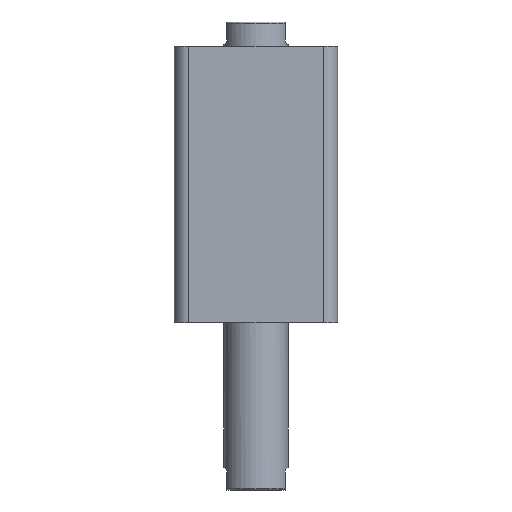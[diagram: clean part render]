
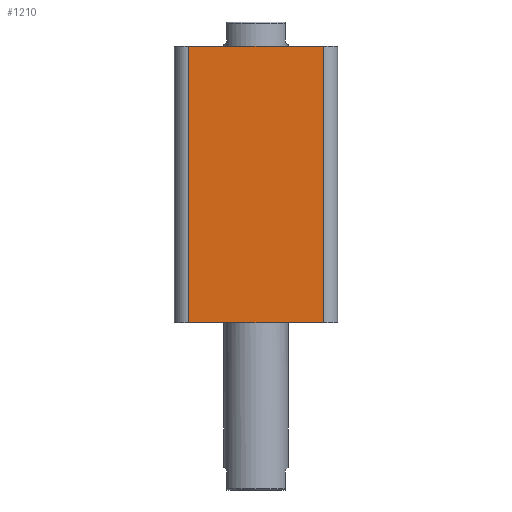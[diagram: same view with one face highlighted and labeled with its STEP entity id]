
A CAD part, front view. The second image highlights one B-rep face of the part: STEP entity #1210.
In plain terms, the highlighted planar face has unit normal (0, -1, 0).
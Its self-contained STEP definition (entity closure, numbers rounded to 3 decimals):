
#40 = DIRECTION ( 'NONE',  ( 0., 1., 0. ) ) ;
#41 = DIRECTION ( 'NONE',  ( 0., 0., 1. ) ) ;
#291 = DIRECTION ( 'NONE',  ( 0., 0., -1. ) ) ;
#303 = CARTESIAN_POINT ( 'NONE',  ( -47., -57., 193. ) ) ;
#737 = FACE_OUTER_BOUND ( 'NONE', #1982, .T. ) ;
#890 = LINE ( 'NONE', #3020, #893 ) ;
#892 = LINE ( 'NONE', #3024, #898 ) ;
#893 = VECTOR ( 'NONE', #3022, 1000. ) ;
#897 = LINE ( 'NONE', #3028, #900 ) ;
#898 = VECTOR ( 'NONE', #3021, 1000. ) ;
#900 = VECTOR ( 'NONE', #3029, 1000. ) ;
#1144 = LINE ( 'NONE', #303, #1146 ) ;
#1146 = VECTOR ( 'NONE', #291, 1000. ) ;
#1210 = ADVANCED_FACE ( 'NONE', ( #737 ), #3245, .F. ) ;
#1748 = VERTEX_POINT ( 'NONE', #2830 ) ;
#1827 = VERTEX_POINT ( 'NONE', #2908 ) ;
#1835 = VERTEX_POINT ( 'NONE', #2916 ) ;
#1837 = VERTEX_POINT ( 'NONE', #2918 ) ;
#1982 = EDGE_LOOP ( 'NONE', ( #3211, #3212, #3213, #3214 ) ) ;
#2070 = EDGE_CURVE ( 'NONE', #1748, #1837, #890, .T. ) ;
#2073 = EDGE_CURVE ( 'NONE', #1835, #1827, #892, .T. ) ;
#2074 = EDGE_CURVE ( 'NONE', #1837, #1827, #897, .T. ) ;
#2269 = EDGE_CURVE ( 'NONE', #1835, #1748, #1144, .T. ) ;
#2308 = AXIS2_PLACEMENT_3D ( 'NONE', #3251, #40, #41 ) ;
#2830 = CARTESIAN_POINT ( 'NONE',  ( -47., -57., 0. ) ) ;
#2908 = CARTESIAN_POINT ( 'NONE',  ( 47., -57., 193. ) ) ;
#2916 = CARTESIAN_POINT ( 'NONE',  ( -47., -57., 193. ) ) ;
#2918 = CARTESIAN_POINT ( 'NONE',  ( 47., -57., 0. ) ) ;
#3020 = CARTESIAN_POINT ( 'NONE',  ( -57., -57., 0. ) ) ;
#3021 = DIRECTION ( 'NONE',  ( 1., 0., 0. ) ) ;
#3022 = DIRECTION ( 'NONE',  ( 1., 0., 0. ) ) ;
#3024 = CARTESIAN_POINT ( 'NONE',  ( -57., -57., 193. ) ) ;
#3028 = CARTESIAN_POINT ( 'NONE',  ( 47., -57., 193. ) ) ;
#3029 = DIRECTION ( 'NONE',  ( 0., 0., 1. ) ) ;
#3211 = ORIENTED_EDGE ( 'NONE', *, *, #2070, .T. ) ;
#3212 = ORIENTED_EDGE ( 'NONE', *, *, #2074, .T. ) ;
#3213 = ORIENTED_EDGE ( 'NONE', *, *, #2073, .F. ) ;
#3214 = ORIENTED_EDGE ( 'NONE', *, *, #2269, .T. ) ;
#3245 = PLANE ( 'NONE',  #2308 ) ;
#3251 = CARTESIAN_POINT ( 'NONE',  ( -57., -57., 193. ) ) ;
